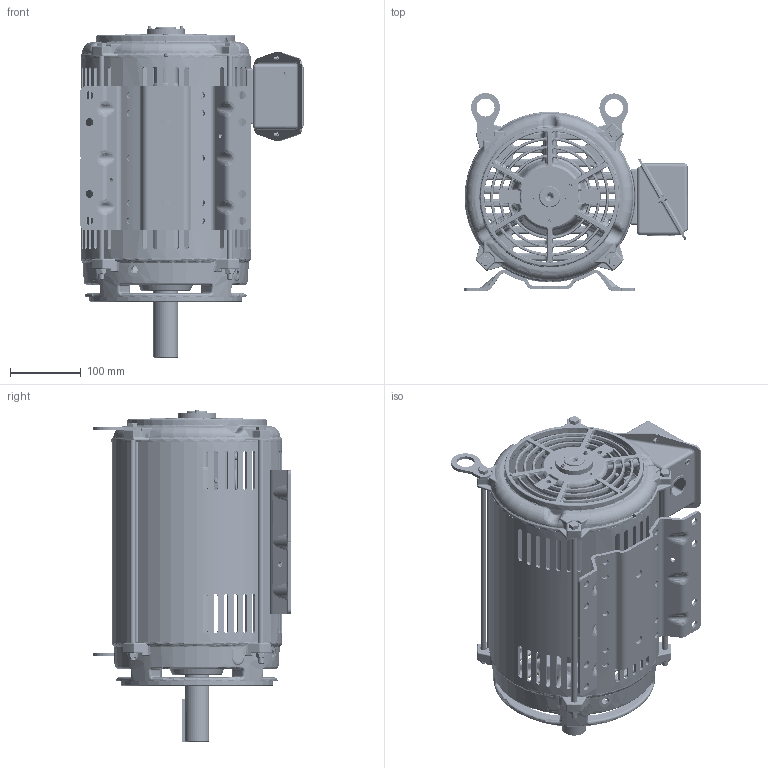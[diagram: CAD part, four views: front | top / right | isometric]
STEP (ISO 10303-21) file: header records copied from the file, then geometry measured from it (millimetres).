
FILE_DESCRIPTION (( 'STEP AP203' ), '1' );
FILE_NAME ('SS621178_RevD.STEP', '2022-05-17T06:05:35', ( '' ), ( '' ), 'SwSTEP 2.0', 'SolidWorks 2021', '' );
FILE_SCHEMA (( 'CONFIG_CONTROL_DESIGN' ));
Length unit declared in the file: inch
Products named in the file (1): SS621178_RevD
Bounding box: 315.72 x 279.71 x 469.9 mm (x, y, z)
Volume: 2984489.3 mm3; surface area: 1127043.6 mm2
Topology: 32 solids, 32 shells, 5419 faces, 13959 edges, 8223 vertices
Faces by surface type: plane 1579, bspline 1332, cylinder 1259, torus 680, cone 407, sphere 162
Entity records: 231969 total; most frequent: CARTESIAN_POINT 113476, ORIENTED_EDGE 27260, DIRECTION 22055, EDGE_CURVE 13630, AXIS2_PLACEMENT_3D 8906, VERTEX_POINT 8210, EDGE_LOOP 5698, ADVANCED_FACE 5419
